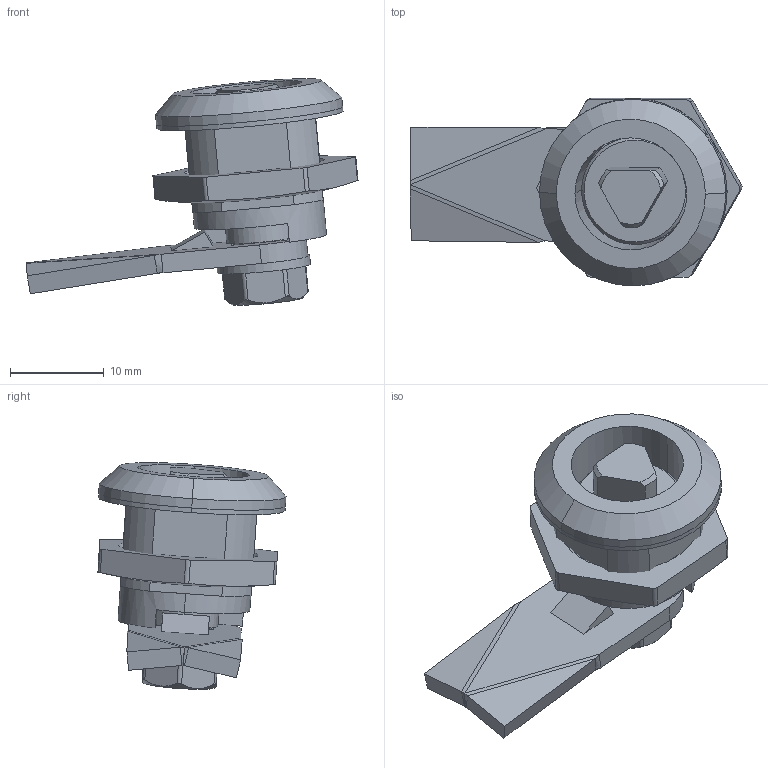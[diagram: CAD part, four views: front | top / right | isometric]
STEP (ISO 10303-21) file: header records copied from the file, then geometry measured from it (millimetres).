
FILE_DESCRIPTION (( 'STEP AP214' ), '1' );
FILE_NAME ('M16.STEP', '2010-02-22T17:55:46', ( 'Rak' ), ( 'ROZTOCZE' ), 'SwSTEP 2.0', 'SolidWorks 2004231', '' );
FILE_SCHEMA (( 'AUTOMOTIVE_DESIGN' ));
Length unit declared in the file: millimetre
Products named in the file (8): 2.M16-T7.00.00.4_Domyœlna; M16; 2.M16-T7.00.00.06_Domyœlna2_Domyœlna; 2.M16-T7.00.00.05_Domyœlna2_Domyœlna; 2.M16-T7.00.00.5_Domyœlna; 2.M16-T7.00.00.03_Domyœlna2_Domyœlna; sruba M6_Domyœlna2_Domyœlna; 2.M16-T7.00.00.04_Domyœlna2_Domyœlna
Assembly tree (7 placements, depth 2):
  M16
    2.M16-T7.00.00.03_Domyœlna2_Domyœlna
    2.M16-T7.00.00.4_Domyœlna
    2.M16-T7.00.00.04_Domyœlna2_Domyœlna
    2.M16-T7.00.00.5_Domyœlna
    2.M16-T7.00.00.06_Domyœlna2_Domyœlna
    sruba M6_Domyœlna2_Domyœlna
    2.M16-T7.00.00.05_Domyœlna2_Domyœlna
Bounding box: 35.48 x 20.1 x 24.23 mm (x, y, z)
Volume: 3987.3 mm3; surface area: 5016.4 mm2
Topology: 9 solids, 9 shells, 174 faces, 416 edges, 265 vertices
Faces by surface type: plane 85, cylinder 58, cone 21, bspline 10
Entity records: 9584 total; most frequent: CARTESIAN_POINT 3380, DIRECTION 832, ORIENTED_EDGE 828, EDGE_CURVE 414, AXIS2_PLACEMENT_3D 300, VERTEX_POINT 265, VECTOR 232, LINE 232
